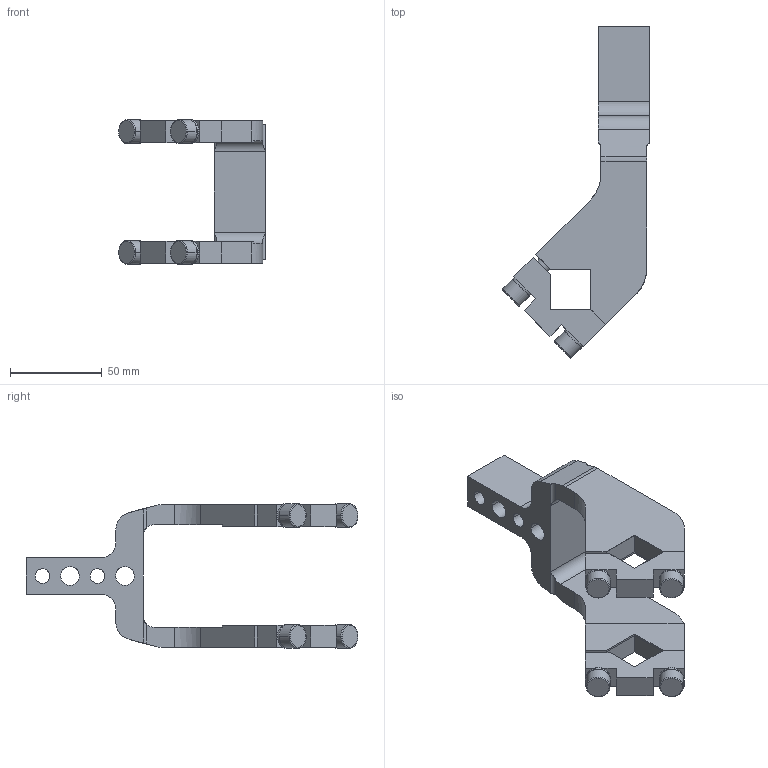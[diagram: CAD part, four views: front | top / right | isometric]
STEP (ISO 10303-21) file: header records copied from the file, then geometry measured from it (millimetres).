
FILE_DESCRIPTION(('CATIA V5 STEP Exchange'),'2;1');
FILE_NAME('E:\clampact\CLAMPACT\clampact\catalog\Clampact Arm\Arm 3D\Clampact Arm\arm_K63_15_A90_Clampact.stp','2022-12-07T04:41:35+00:00',('none'),('none'),'CATIA Version 5 Release 19 SP 6 (IN-10)','CATIA V5 STEP AP203','none');
FILE_SCHEMA(('CONFIG_CONTROL_DESIGN'));
Length unit declared in the file: millimetre
Products named in the file (1): K63_15_A90_Clampact_柯莱普
Bounding box: 80.22 x 181.22 x 79 mm (x, y, z)
Volume: 145957.2 mm3; surface area: 42341.2 mm2
Topology: 1 solids, 5 shells, 184 faces, 479 edges, 305 vertices
Faces by surface type: plane 96, cylinder 56, cone 20, torus 12
Entity records: 6388 total; most frequent: CARTESIAN_POINT 2054, ORIENTED_EDGE 942, DIRECTION 748, EDGE_CURVE 471, VERTEX_POINT 305, AXIS2_PLACEMENT_3D 291, VECTOR 274, LINE 274
